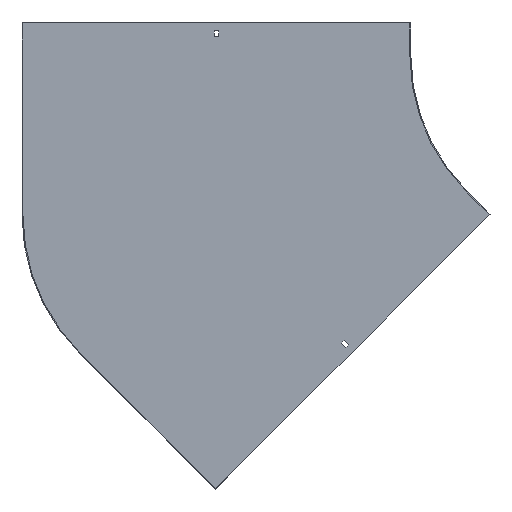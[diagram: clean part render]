
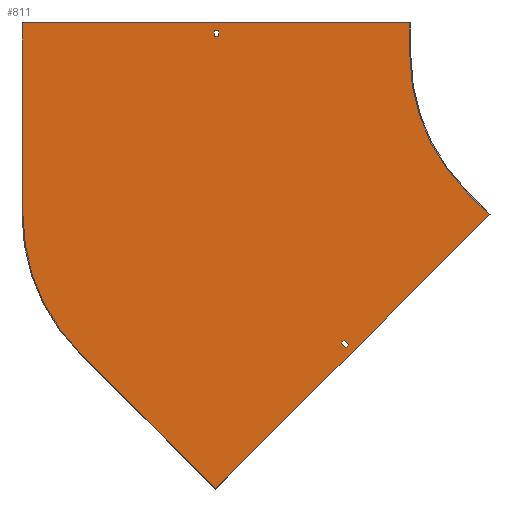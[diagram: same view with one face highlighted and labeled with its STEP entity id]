
A CAD part, front view. The second image highlights one B-rep face of the part: STEP entity #811.
In plain terms, the highlighted planar face has unit normal (0, -1, 0).
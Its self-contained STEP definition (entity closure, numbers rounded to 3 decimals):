
#1 = EDGE_CURVE ( 'NONE', #783, #356, #769, .T. ) ;
#5 = CARTESIAN_POINT ( 'NONE',  ( -175.716, -1.5, -246.427 ) ) ;
#22 = DIRECTION ( 'NONE',  ( 0., 0., -1. ) ) ;
#23 = VERTEX_POINT ( 'NONE', #635 ) ;
#24 = EDGE_CURVE ( 'NONE', #111, #122, #254, .T. ) ;
#34 = LINE ( 'NONE', #421, #415 ) ;
#40 = DIRECTION ( 'NONE',  ( -1., 0., 0. ) ) ;
#43 = LINE ( 'NONE', #317, #334 ) ;
#44 = LINE ( 'NONE', #519, #467 ) ;
#54 = FACE_OUTER_BOUND ( 'NONE', #208, .T. ) ;
#61 = CARTESIAN_POINT ( 'NONE',  ( 0., -1.5, 38. ) ) ;
#72 = VECTOR ( 'NONE', #546, 1000. ) ;
#74 = AXIS2_PLACEMENT_3D ( 'NONE', #469, #333, #120 ) ;
#94 = VERTEX_POINT ( 'NONE', #509 ) ;
#103 = LINE ( 'NONE', #522, #145 ) ;
#105 = CARTESIAN_POINT ( 'NONE',  ( -596.75, -1.5, 29. ) ) ;
#109 = DIRECTION ( 'NONE',  ( 0., -1., 0. ) ) ;
#111 = VERTEX_POINT ( 'NONE', #386 ) ;
#114 = CARTESIAN_POINT ( 'NONE',  ( -601.041, -1.5, -671.751 ) ) ;
#117 = VECTOR ( 'NONE', #401, 1000. ) ;
#120 = DIRECTION ( 'NONE',  ( 0., 0., -1. ) ) ;
#122 = VERTEX_POINT ( 'NONE', #716 ) ;
#132 = CARTESIAN_POINT ( 'NONE',  ( 26.87, -1.5, -26.87 ) ) ;
#139 = LINE ( 'NONE', #5, #745 ) ;
#145 = VECTOR ( 'NONE', #636, 1000. ) ;
#155 = AXIS2_PLACEMENT_3D ( 'NONE', #707, #109, #383 ) ;
#158 = EDGE_CURVE ( 'NONE', #738, #94, #490, .T. ) ;
#165 = VECTOR ( 'NONE', #22, 1000. ) ;
#174 = ORIENTED_EDGE ( 'NONE', *, *, #158, .F. ) ;
#179 = ORIENTED_EDGE ( 'NONE', *, *, #465, .T. ) ;
#186 = FACE_BOUND ( 'NONE', #743, .T. ) ;
#190 = DIRECTION ( 'NONE',  ( 0., 0., 1. ) ) ;
#193 = DIRECTION ( 'NONE',  ( 0.707, 0., -0.707 ) ) ;
#198 = ORIENTED_EDGE ( 'NONE', *, *, #344, .F. ) ;
#200 = VECTOR ( 'NONE', #288, 1000. ) ;
#208 = EDGE_LOOP ( 'NONE', ( #198, #611, #831, #279, #573, #518, #174, #600 ) ) ;
#212 = LINE ( 'NONE', #132, #117 ) ;
#217 = CARTESIAN_POINT ( 'NONE',  ( -600., -1.5, -248.528 ) ) ;
#227 = LINE ( 'NONE', #295, #474 ) ;
#238 = ORIENTED_EDGE ( 'NONE', *, *, #437, .F. ) ;
#250 = VECTOR ( 'NONE', #445, 1000. ) ;
#253 = CARTESIAN_POINT ( 'NONE',  ( -176.777, -1.5, -247.487 ) ) ;
#254 = LINE ( 'NONE', #849, #537 ) ;
#262 = EDGE_CURVE ( 'NONE', #665, #554, #34, .T. ) ;
#266 = PLANE ( 'NONE',  #155 ) ;
#273 = VERTEX_POINT ( 'NONE', #373 ) ;
#279 = ORIENTED_EDGE ( 'NONE', *, *, #775, .F. ) ;
#280 = LINE ( 'NONE', #470, #165 ) ;
#283 = VERTEX_POINT ( 'NONE', #427 ) ;
#286 = CARTESIAN_POINT ( 'NONE',  ( -421.966, -1.5, -421.966 ) ) ;
#288 = DIRECTION ( 'NONE',  ( 1., 0., 0. ) ) ;
#295 = CARTESIAN_POINT ( 'NONE',  ( -901.5, -1.5, 50. ) ) ;
#307 = DIRECTION ( 'NONE',  ( 0.707, 0., -0.707 ) ) ;
#314 = EDGE_CURVE ( 'NONE', #23, #738, #280, .T. ) ;
#317 = CARTESIAN_POINT ( 'NONE',  ( -603.25, -1.5, 0. ) ) ;
#318 = LINE ( 'NONE', #390, #438 ) ;
#320 = DIRECTION ( 'NONE',  ( 0., 0., 1. ) ) ;
#331 = VERTEX_POINT ( 'NONE', #342 ) ;
#333 = DIRECTION ( 'NONE',  ( 0., -1., 0. ) ) ;
#334 = VECTOR ( 'NONE', #320, 1000. ) ;
#335 = EDGE_CURVE ( 'NONE', #515, #273, #139, .T. ) ;
#342 = CARTESIAN_POINT ( 'NONE',  ( -603.25, -1.5, 38. ) ) ;
#344 = EDGE_CURVE ( 'NONE', #122, #23, #227, .T. ) ;
#355 = LINE ( 'NONE', #286, #72 ) ;
#356 = VERTEX_POINT ( 'NONE', #659 ) ;
#373 = CARTESIAN_POINT ( 'NONE',  ( -601.041, -1.5, -671.751 ) ) ;
#383 = DIRECTION ( 'NONE',  ( 0., 0., -1. ) ) ;
#386 = CARTESIAN_POINT ( 'NONE',  ( -900., -1.5, -248.528 ) ) ;
#390 = CARTESIAN_POINT ( 'NONE',  ( -212.132, -1.5, -212.132 ) ) ;
#398 = DIRECTION ( 'NONE',  ( 1., 0., 0. ) ) ;
#401 = DIRECTION ( 'NONE',  ( 0.707, 0., 0.707 ) ) ;
#412 = DIRECTION ( 'NONE',  ( -0.707, 0., -0.707 ) ) ;
#413 = EDGE_CURVE ( 'NONE', #521, #111, #552, .T. ) ;
#415 = VECTOR ( 'NONE', #307, 1000. ) ;
#418 = EDGE_LOOP ( 'NONE', ( #644, #179, #540, #751 ) ) ;
#420 = EDGE_CURVE ( 'NONE', #554, #283, #212, .T. ) ;
#421 = CARTESIAN_POINT ( 'NONE',  ( -426.562, -1.5, -426.562 ) ) ;
#427 = CARTESIAN_POINT ( 'NONE',  ( -395.096, -1.5, -448.836 ) ) ;
#437 = EDGE_CURVE ( 'NONE', #283, #591, #355, .T. ) ;
#438 = VECTOR ( 'NONE', #193, 1000. ) ;
#445 = DIRECTION ( 'NONE',  ( -0.707, 0., 0.707 ) ) ;
#449 = CARTESIAN_POINT ( 'NONE',  ( -399.692, -1.5, -453.432 ) ) ;
#452 = FACE_BOUND ( 'NONE', #418, .T. ) ;
#465 = EDGE_CURVE ( 'NONE', #627, #783, #103, .T. ) ;
#467 = VECTOR ( 'NONE', #642, 1000. ) ;
#469 = CARTESIAN_POINT ( 'NONE',  ( 0., -1.5, 0. ) ) ;
#470 = CARTESIAN_POINT ( 'NONE',  ( -300., -1.5, 50. ) ) ;
#474 = VECTOR ( 'NONE', #398, 1000. ) ;
#475 = ORIENTED_EDGE ( 'NONE', *, *, #420, .F. ) ;
#476 = DIRECTION ( 'NONE',  ( 0., 1., 0. ) ) ;
#477 = EDGE_CURVE ( 'NONE', #356, #331, #43, .T. ) ;
#490 = CIRCLE ( 'NONE', #74, 300. ) ;
#509 = CARTESIAN_POINT ( 'NONE',  ( -212.132, -1.5, -212.132 ) ) ;
#515 = VERTEX_POINT ( 'NONE', #253 ) ;
#518 = ORIENTED_EDGE ( 'NONE', *, *, #786, .F. ) ;
#519 = CARTESIAN_POINT ( 'NONE',  ( 20.506, -1.5, -20.506 ) ) ;
#521 = VERTEX_POINT ( 'NONE', #704 ) ;
#522 = CARTESIAN_POINT ( 'NONE',  ( -596.75, -1.5, 0. ) ) ;
#537 = VECTOR ( 'NONE', #190, 1000. ) ;
#540 = ORIENTED_EDGE ( 'NONE', *, *, #1, .T. ) ;
#546 = DIRECTION ( 'NONE',  ( -0.707, 0., 0.707 ) ) ;
#552 = CIRCLE ( 'NONE', #715, 300. ) ;
#554 = VERTEX_POINT ( 'NONE', #449 ) ;
#573 = ORIENTED_EDGE ( 'NONE', *, *, #335, .F. ) ;
#577 = VECTOR ( 'NONE', #40, 1000. ) ;
#591 = VERTEX_POINT ( 'NONE', #592 ) ;
#592 = CARTESIAN_POINT ( 'NONE',  ( -401.46, -1.5, -442.472 ) ) ;
#600 = ORIENTED_EDGE ( 'NONE', *, *, #314, .F. ) ;
#602 = CARTESIAN_POINT ( 'NONE',  ( -406.056, -1.5, -447.068 ) ) ;
#611 = ORIENTED_EDGE ( 'NONE', *, *, #24, .F. ) ;
#627 = VERTEX_POINT ( 'NONE', #794 ) ;
#635 = CARTESIAN_POINT ( 'NONE',  ( -300., -1.5, 50. ) ) ;
#636 = DIRECTION ( 'NONE',  ( 0., 0., -1. ) ) ;
#642 = DIRECTION ( 'NONE',  ( -0.707, 0., -0.707 ) ) ;
#644 = ORIENTED_EDGE ( 'NONE', *, *, #654, .T. ) ;
#650 = LINE ( 'NONE', #114, #250 ) ;
#654 = EDGE_CURVE ( 'NONE', #331, #627, #670, .T. ) ;
#659 = CARTESIAN_POINT ( 'NONE',  ( -603.25, -1.5, 29. ) ) ;
#665 = VERTEX_POINT ( 'NONE', #602 ) ;
#670 = LINE ( 'NONE', #61, #200 ) ;
#704 = CARTESIAN_POINT ( 'NONE',  ( -812.132, -1.5, -460.66 ) ) ;
#707 = CARTESIAN_POINT ( 'NONE',  ( 0., -1.5, 0. ) ) ;
#715 = AXIS2_PLACEMENT_3D ( 'NONE', #217, #476, #799 ) ;
#716 = CARTESIAN_POINT ( 'NONE',  ( -900., -1.5, 50. ) ) ;
#724 = ORIENTED_EDGE ( 'NONE', *, *, #785, .F. ) ;
#738 = VERTEX_POINT ( 'NONE', #835 ) ;
#743 = EDGE_LOOP ( 'NONE', ( #238, #475, #828, #724 ) ) ;
#745 = VECTOR ( 'NONE', #412, 1000. ) ;
#751 = ORIENTED_EDGE ( 'NONE', *, *, #477, .T. ) ;
#769 = LINE ( 'NONE', #857, #577 ) ;
#775 = EDGE_CURVE ( 'NONE', #273, #521, #650, .T. ) ;
#783 = VERTEX_POINT ( 'NONE', #105 ) ;
#785 = EDGE_CURVE ( 'NONE', #591, #665, #44, .T. ) ;
#786 = EDGE_CURVE ( 'NONE', #94, #515, #318, .T. ) ;
#794 = CARTESIAN_POINT ( 'NONE',  ( -596.75, -1.5, 38. ) ) ;
#799 = DIRECTION ( 'NONE',  ( 0., 0., -1. ) ) ;
#811 = ADVANCED_FACE ( 'NONE', ( #186, #54, #452 ), #266, .T. ) ;
#828 = ORIENTED_EDGE ( 'NONE', *, *, #262, .F. ) ;
#831 = ORIENTED_EDGE ( 'NONE', *, *, #413, .F. ) ;
#835 = CARTESIAN_POINT ( 'NONE',  ( -300., -1.5, 0. ) ) ;
#849 = CARTESIAN_POINT ( 'NONE',  ( -900., -1.5, -248.528 ) ) ;
#857 = CARTESIAN_POINT ( 'NONE',  ( 0., -1.5, 29. ) ) ;
